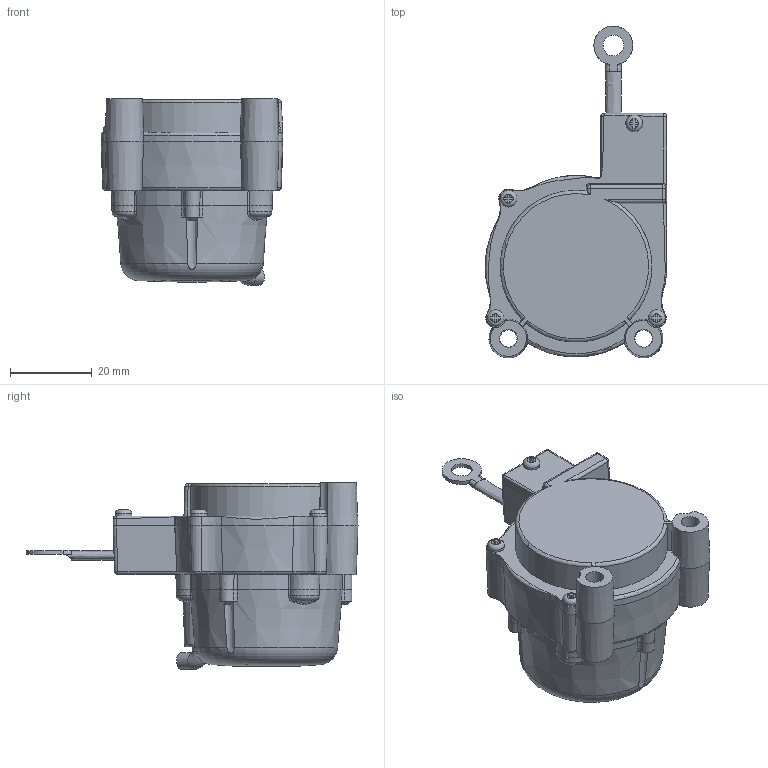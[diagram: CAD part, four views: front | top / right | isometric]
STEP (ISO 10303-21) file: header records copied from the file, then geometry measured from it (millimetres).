
FILE_DESCRIPTION(/* description */ (''),/* implementation_level */ '2;1');
FILE_NAME(/* name */ '\\truenas\1-DOC\Z-Jess Directory\00-Inventor Workspace\lx-em-16-1.stp',/* time_stamp */ '2023-06-01T09:38:12-07:00',/* author */ ('JessRP'),/* organization */ (''),/* preprocessor_version */ 'ST-DEVELOPER v18',/* originating_system */ 'Autodesk Inventor 2020',/* authorisation */ '');
FILE_SCHEMA (('AUTOMOTIVE_DESIGN { 1 0 10303 214 3 1 1 }'));
Length unit declared in the file: inch
Products named in the file (1): lx-em-16
Bounding box: 44.44 x 81.15 x 45.69 mm (x, y, z)
Volume: 60439.1 mm3; surface area: 14686.3 mm2
Topology: 1 solids, 20 shells, 538 faces, 1474 edges, 961 vertices
Faces by surface type: plane 204, cone 165, cylinder 67, bspline 63, torus 33, sphere 6
Full cylindrical faces by diameter (mm): 0.914 x24, 1.524 x3, 4.089 x4, 4.127 x2, 4.216 x2, 4.385 x2, 5.08 x1, 28.702 x1
Entity records: 26701 total; most frequent: CARTESIAN_POINT 13145, ORIENTED_EDGE 2930, DIRECTION 2751, EDGE_CURVE 1465, AXIS2_PLACEMENT_3D 1146, VERTEX_POINT 961, CIRCLE 646, EDGE_LOOP 558
